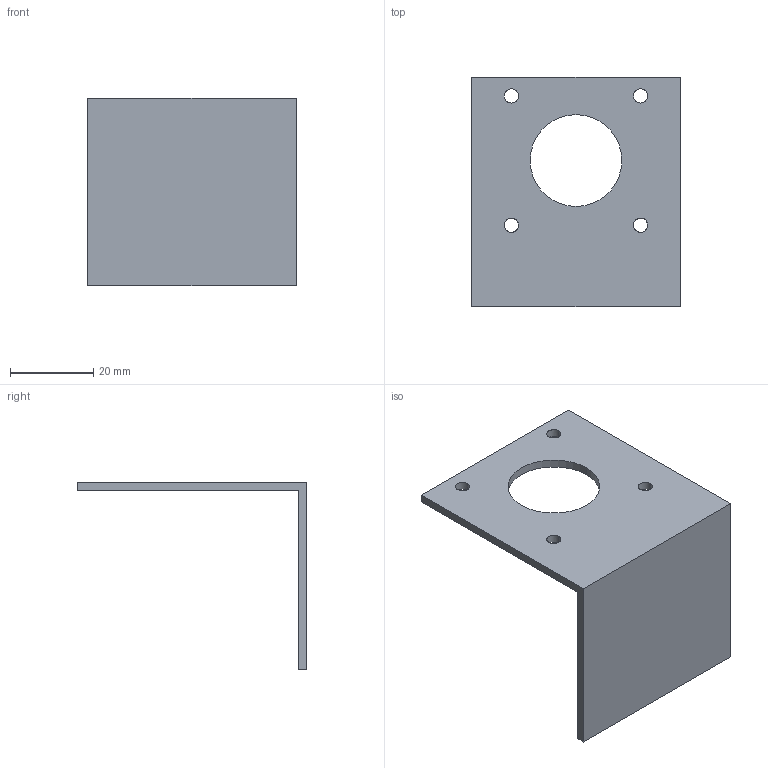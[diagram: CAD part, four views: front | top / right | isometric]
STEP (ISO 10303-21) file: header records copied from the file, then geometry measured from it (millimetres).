
FILE_DESCRIPTION (( 'STEP AP203' ), '1' );
FILE_NAME ('10_Ga_L_CHUA_DU_LO.STEP', '2026-11-14T10:10:42', ( '' ), ( '' ), 'SwSTEP 2.0', 'SolidWorks 2026', '' );
FILE_SCHEMA (( 'CONFIG_CONTROL_DESIGN' ));
Length unit declared in the file: metre
Products named in the file (1): 10_Ga_L_CHUA_DU_LO
Bounding box: 50 x 55 x 45 mm (x, y, z)
Volume: 8967.1 mm3; surface area: 9782.8 mm2
Topology: 1 solids, 1 shells, 18 faces, 48 edges, 32 vertices
Faces by surface type: cylinder 10, plane 8
Entity records: 781 total; most frequent: CARTESIAN_POINT 235, ORIENTED_EDGE 96, DIRECTION 90, EDGE_CURVE 48, VERTEX_POINT 32, AXIS2_PLACEMENT_3D 31, LINE 28, EDGE_LOOP 28
